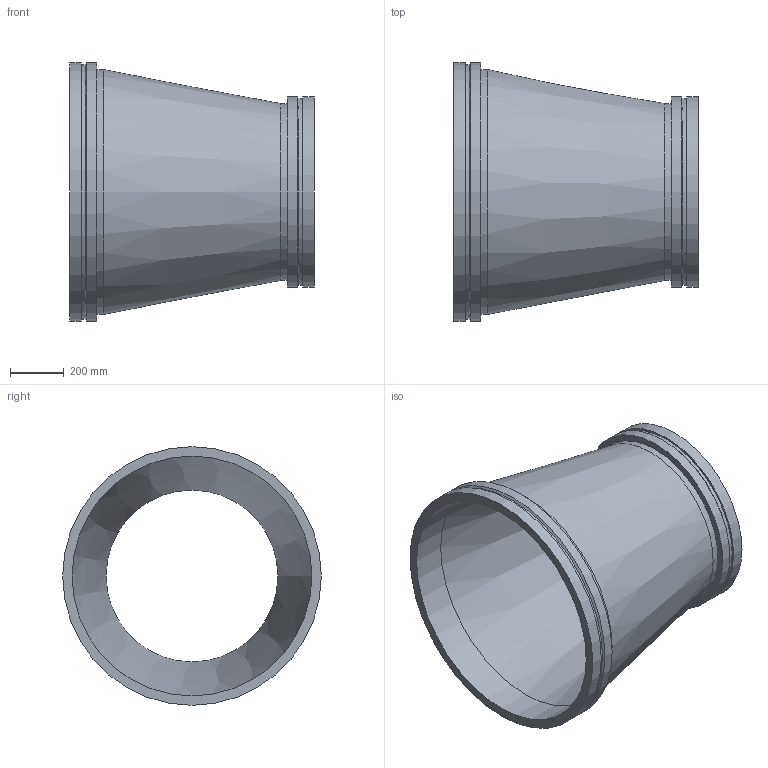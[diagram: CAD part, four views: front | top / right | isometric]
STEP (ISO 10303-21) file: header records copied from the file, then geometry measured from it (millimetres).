
FILE_DESCRIPTION(/* description */ ('VIC REDUCER CONCENTRIC No W50 VR','CAx-IF Rec.Pracs.---Representation and Presentation of Product Manufacturing Information (PMI)---4.0---2014-10-13'),/* implementation_level */ '2;1');
FILE_NAME(/* name */ 'C:\Users\kkamble\AppData\Roaming\Autodesk\ApplicationPlugins\Back Up\Victaulic_Vic-Ring_Reducer Concentric_No W50 VR (AGR)\Victaulic_Vic-Ring_Reducer Concentric_No W50 VR (AGR)_36.0x26.0 (900x650).stp',/* time_stamp */ '2020-09-10T11:47:04+05:00',/* author */ ('cps_temp'),/* organization */ ('Victaulic'),/* preprocessor_version */ 'ST-DEVELOPER v17.2',/* originating_system */ 'Autodesk Inventor 2019',/* authorisation */ '');
FILE_SCHEMA (('AP242_MANAGED_MODEL_BASED_3D_ENGINEERING_MIM_LF { 1 0 10303 442 1 1 4 }'));
Length unit declared in the file: inch
Products named in the file (1): W50 VR-36.0x26.0
Bounding box: 914.4 x 965.2 x 965.2 mm (x, y, z)
Volume: 33834908.8 mm3; surface area: 4920626.9 mm2
Topology: 1 solids, 1 shells, 20 faces, 54 edges, 40 vertices
Faces by surface type: cylinder 10, plane 6, cone 4
Full cylindrical faces by diameter (mm): 641.35 x1, 660.4 x1, 696.722 x1, 711.2 x2, 895.35 x1, 914.4 x1, 950.722 x1, 965.2 x2
Entity records: 830 total; most frequent: DIRECTION 162, CARTESIAN_POINT 132, ORIENTED_EDGE 108, AXIS2_PLACEMENT_3D 74, EDGE_CURVE 54, CIRCLE 40, VERTEX_POINT 40, EDGE_LOOP 26
